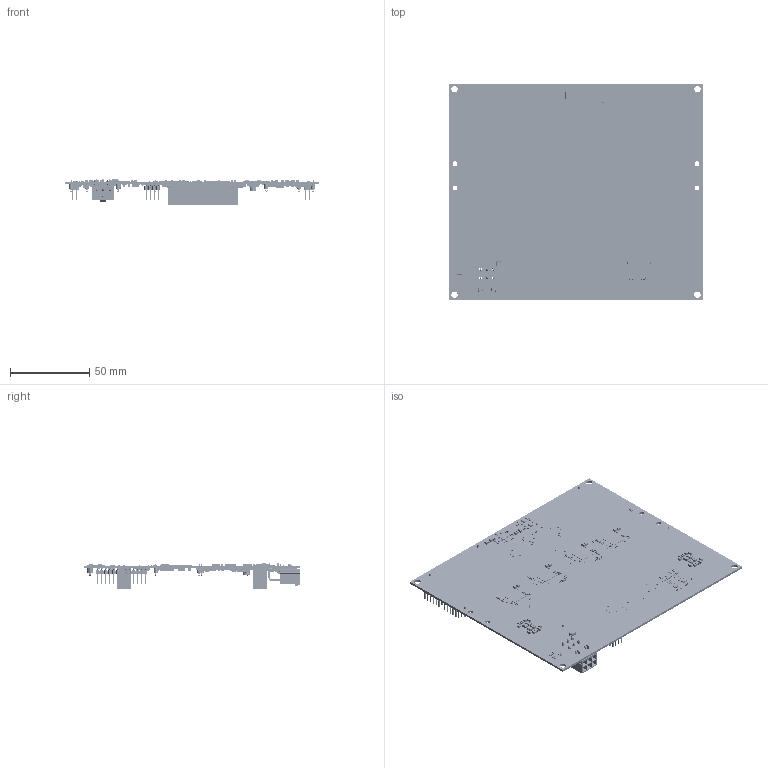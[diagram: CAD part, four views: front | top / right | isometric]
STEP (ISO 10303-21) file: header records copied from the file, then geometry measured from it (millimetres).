
FILE_DESCRIPTION(('Open CASCADE Model'),'2;1');
FILE_NAME('Open CASCADE Shape Model','2019-07-10T16:54:44',('Author'),( 'Open CASCADE'),'Open CASCADE STEP processor 6.8','Open CASCADE 6.8' ,'Unknown');
FILE_SCHEMA(('AUTOMOTIVE_DESIGN { 1 0 10303 214 1 1 1 1 }'));
Length unit declared in the file: millimetre
Products named in the file (878): PCB; Board; R108; 6216455680; Extruded; 6216455488; R20; 6216456064; 6216455872; R19; R188_4; R188_3; R188_2; 6216453184; 6216452992; R188_1; R21_4; R22_4; R23_4; R24_4; R25_4; R26_4; R21_3; R22_3; R23_3; R24_3; R25_3; R26_3; R21_2; R22_2; R23_2; R24_2; R25_2; R26_2; R26_1; R25_1; R24_1; R23_1; R22_1; R21_1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
Assembly tree (3056 placements, depth 5):
  PCB
    Board
    R108
      6216455680  x2
        Extruded
      6216455488
        Extruded
    R20
      6216456064  x2
        Extruded
      6216455872
        Extruded
    R19
      6216456064  x2
        Extruded
      6216455872
        Extruded
    R188_4
      6216456064  x2
        Extruded
      6216455872
        Extruded
    R188_3
      6216456064  x2
        Extruded
      6216455872
        Extruded
    R188_2
      6216453184  x2
        Extruded
      6216452992
        Extruded
    R188_1
      6216456064  x2
        Extruded
      6216455872
        Extruded
    R21_4
      6216455680  x2
        Extruded
      6216455488
        Extruded
    R22_4
      6216455680  x2
        Extruded
      6216455488
        Extruded
    R23_4
      6216455680  x2
        Extruded
      6216455488
        Extruded
    R24_4
      6216455680  x2
        Extruded
      6216455488
        Extruded
    R25_4
      6216455680  x2
        Extruded
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Bounding box: 160 x 136.4 x 16.75 mm (x, y, z)
Volume: 45832.4 mm3; surface area: 67683.9 mm2
Topology: 2851 solids, 2851 shells, 19306 faces, 42042 edges, 27298 vertices
Faces by surface type: plane 17240, sphere 1348, cylinder 714, cone 4
Full cylindrical faces by diameter (mm): 1 x8, 1.016 x8, 1.2 x8, 1.8 x6, 2.5 x8, 3 x6, 4.064 x4
Entity records: 101352 total; most frequent: DIRECTION 16323, CARTESIAN_POINT 14733, ORIENTED_EDGE 11100, AXIS2_PLACEMENT_3D 5616, EDGE_CURVE 5550, LINE 5091, VECTOR 5091, PRODUCT_DEFINITION_SHAPE 3934
